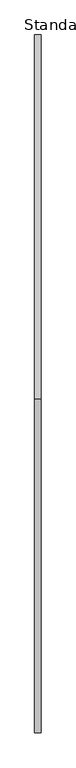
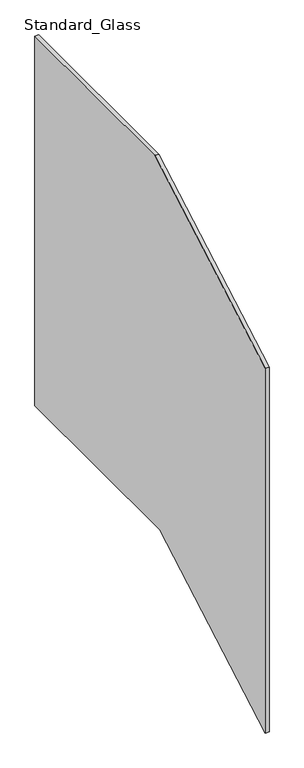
"""IFC4 building model written with IfcOpenShell, lengths in millimetres: railing geometry, Baluster-Landing-Panel-VIVA-VISIO-Lower : Standard_Glass."""

import ifcopenshell
import ifcopenshell.guid

model = None  # the IFC model being written
_history = None  # IfcOwnerHistory: only IFC2X3 demands one
_inside = {}  # id of a spatial element -> (the spatial element, [elements in it])
_under = {}  # id of a project, library or spatial element -> (it, [spatial elements below it])
_declared = {}  # id of a project -> (the project, [libraries it declares])
_typed = {}  # id of a type object -> (the type object, [elements of that type])
_made_of = {}  # id of a material, layer set ... -> (it, [elements and type objects made of it])


def new_model(schema):
    """Start an empty IFC model of exactly this schema.

    Asked for "IFC4X3", IfcOpenShell would pick the latest addendum, in which some entities
    have other attributes; the version numbers below select the first issue.
    IFC2X3 requires an IfcOwnerHistory on every rooted entity: one is made here for all.
    """
    global model, _history
    if schema == "IFC4X3":
        model = ifcopenshell.file(schema_version=(4, 3, 0, 0))
    else:
        model = ifcopenshell.file(schema=schema)
    _inside.clear()
    _under.clear()
    _declared.clear()
    _typed.clear()
    _made_of.clear()
    _history = None
    if model.schema == "IFC2X3":
        org = make("IfcOrganization", Name="unknown")
        user = make(
            "IfcPersonAndOrganization",
            ThePerson=make("IfcPerson", FamilyName="unknown"),
            TheOrganization=org,
        )
        app = make(
            "IfcApplication",
            ApplicationDeveloper=org,
            Version="unknown",
            ApplicationFullName="unknown",
            ApplicationIdentifier="unknown",
        )
        _history = make(
            "IfcOwnerHistory",
            OwningUser=user,
            OwningApplication=app,
            ChangeAction="ADDED",
            CreationDate=0,
        )
    return model


def make(cls, **values):
    """One entity of the class cls with the attributes given. An attribute that is None is left unset."""
    return model.create_entity(
        cls, **{name: value for name, value in values.items() if value is not None}
    )


def rooted(cls, **values):
    """An entity with a GlobalId (a new one), such as an element, a storey or a relation."""
    return make(cls, GlobalId=ifcopenshell.guid.new(), OwnerHistory=_history, **values)


def si_unit(unit_type, name, prefix=None):
    """IfcSIUnit, for example si_unit("LENGTHUNIT", "METRE", prefix="MILLI")."""
    return make("IfcSIUnit", UnitType=unit_type, Prefix=prefix, Name=name)


def assignment(units):
    """IfcUnitAssignment: the units of a project."""
    return None if units is None else make("IfcUnitAssignment", Units=units)


def point(xyz):
    """IfcCartesianPoint."""
    return None if xyz is None else make("IfcCartesianPoint", Coordinates=xyz)


def direction(xyz):
    """IfcDirection."""
    return None if xyz is None else make("IfcDirection", DirectionRatios=xyz)


def frame(location, z_axis=None, x_axis=None):
    """IfcAxis2Placement3D, a coordinate frame: its origin and axes. An axis left out is left unset."""
    return make(
        "IfcAxis2Placement3D",
        Location=point(location),
        Axis=direction(z_axis),
        RefDirection=direction(x_axis),
    )


def origin():
    """The frame at (0, 0, 0) with its axes left unset."""
    return frame((0.0, 0.0, 0.0))


def place(relative_to, where):
    """IfcLocalPlacement: puts the frame where relative to a parent placement (None: the world)."""
    return make(
        "IfcLocalPlacement", PlacementRelTo=relative_to, RelativePlacement=where
    )


def context(
    kind, dimensions, precision=None, world=None, true_north=None, identifier=None
):
    """IfcGeometricRepresentationContext, for example the 3D "Model" context."""
    return make(
        "IfcGeometricRepresentationContext",
        ContextIdentifier=identifier,
        ContextType=kind,
        CoordinateSpaceDimension=dimensions,
        Precision=precision,
        WorldCoordinateSystem=world,
        TrueNorth=true_north,
    )


def project(units=None, contexts=None):
    """IfcProject with its units and contexts."""
    return rooted(
        "IfcProject",
        Name="project",
        RepresentationContexts=contexts,
        UnitsInContext=assignment(units),
    )


def spatial(cls, under=None, at=None, **own):
    """A site, building, storey or space (cls), placed at a placement, below another one or the project."""
    s = rooted(cls, ObjectPlacement=at, **own)
    if under is not None:
        _under.setdefault(under.id(), (under, []))[1].append(s)
    return s


def polyline(points):
    """IfcPolyline through the points."""
    return make("IfcPolyline", Points=[point(p) for p in points])


def outline(outer, holes=None, kind="AREA"):
    """IfcArbitraryClosedProfileDef: a profile drawn as a closed curve; with holes, ...WithVoids."""
    if holes is None:
        return make("IfcArbitraryClosedProfileDef", ProfileType=kind, OuterCurve=outer)
    return make(
        "IfcArbitraryProfileDefWithVoids",
        ProfileType=kind,
        OuterCurve=outer,
        InnerCurves=holes,
    )


def extrude(swept, where, along, depth):
    """IfcExtrudedAreaSolid: the profile swept, set in the frame where, extruded along a direction by depth."""
    return make(
        "IfcExtrudedAreaSolid",
        SweptArea=swept,
        Position=where,
        ExtrudedDirection=direction(along),
        Depth=depth,
    )


def shape(context_of_items, identifier, shape_type, items):
    """IfcShapeRepresentation: the items that make up one representation, for example the "Body"."""
    return make(
        "IfcShapeRepresentation",
        ContextOfItems=context_of_items,
        RepresentationIdentifier=identifier,
        RepresentationType=shape_type,
        Items=items,
    )


def source(mapping_origin, context_of_items, identifier, shape_type, items):
    """IfcRepresentationMap: a shape defined once, which mapped items show again and again."""
    return make(
        "IfcRepresentationMap",
        MappingOrigin=mapping_origin,
        MappedRepresentation=shape(context_of_items, identifier, shape_type, items),
    )


def transform(
    local_origin,
    x_axis=None,
    y_axis=None,
    z_axis=None,
    scale=None,
    scale2=None,
    scale3=None,
    uniform=True,
):
    """IfcCartesianTransformationOperator3D, or its non-uniform kind. x_axis, y_axis, z_axis: its Axis1, 2, 3."""
    if uniform:
        return make(
            "IfcCartesianTransformationOperator3D",
            Axis1=direction(x_axis),
            Axis2=direction(y_axis),
            LocalOrigin=point(local_origin),
            Scale=scale,
            Axis3=direction(z_axis),
        )
    return make(
        "IfcCartesianTransformationOperator3DnonUniform",
        Axis1=direction(x_axis),
        Axis2=direction(y_axis),
        LocalOrigin=point(local_origin),
        Scale=scale,
        Axis3=direction(z_axis),
        Scale2=scale2,
        Scale3=scale3,
    )


def mapped(mapping_source, mapping_target):
    """IfcMappedItem: shows the shape of a source again, moved by a transform."""
    return make(
        "IfcMappedItem", MappingSource=mapping_source, MappingTarget=mapping_target
    )


def made_of(thing, what):
    """Note that an element or type object is made of a material, layer set ...; save() writes the relation."""
    if what is not None:
        _made_of.setdefault(what.id(), (what, []))[1].append(thing)
    return thing


def element(
    cls,
    number,
    at=None,
    inside=None,
    cuts=None,
    type_object=None,
    material=None,
    context=None,
    identifier="Body",
    shape_type=None,
    held_by="IfcProductDefinitionShape",
    body=None,
    shapes=None,
    **own,
):
    """One element of the class cls, such as IfcWall. Its Tag is "e" and its number.

    at: its placement. inside: the storey or other place that contains it. cuts: it is an
    opening in that element (IfcRelVoidsElement). A single representation is given by context,
    identifier, shape_type and body (its items); several are given by shapes. held_by: the class
    of the entity that holds the representations. save() writes the other relations.
    """
    e = rooted(cls, Tag="e%d" % number, ObjectPlacement=at, **own)
    if body is not None:
        shapes = [shape(context, identifier, shape_type, body)]
    if shapes is not None:
        e.Representation = make(held_by, Representations=shapes)
    if inside is not None:
        _inside.setdefault(inside.id(), (inside, []))[1].append(e)
    if cuts is not None:
        rooted(
            "IfcRelVoidsElement", RelatingBuildingElement=cuts, RelatedOpeningElement=e
        )
    if type_object is not None:
        _typed.setdefault(type_object.id(), (type_object, []))[1].append(e)
    return made_of(e, material)


def aggregate(whole, parts):
    """IfcRelAggregates: a whole, such as a stair, and the parts it consists of."""
    return rooted("IfcRelAggregates", RelatingObject=whole, RelatedObjects=parts)


def save(model, path):
    """Write the relations noted so far, then the file.

    IfcRelAggregates (storeys below a building ...), IfcRelContainedInSpatialStructure (elements
    in a storey), IfcRelDefinesByType, IfcRelAssociatesMaterial and IfcRelDeclares: one each for
    every whole, place, type object, material and project.
    """
    for whole, parts in _under.values():
        aggregate(whole, parts)
    for where, things in _inside.values():
        rooted(
            "IfcRelContainedInSpatialStructure",
            RelatedElements=things,
            RelatingStructure=where,
        )
    for kind, things in _typed.values():
        rooted("IfcRelDefinesByType", RelatedObjects=things, RelatingType=kind)
    for what, things in _made_of.values():
        rooted("IfcRelAssociatesMaterial", RelatedObjects=things, RelatingMaterial=what)
    for by, libraries in _declared.values():
        rooted("IfcRelDeclares", RelatingContext=by, RelatedDefinitions=libraries)
    model.write(path)


def standard_glass_eb46f0c2(model_context):
    return source(origin(), model_context, "Body", "SweptSolid", [
        extrude(outline(polyline([(485.5188066, 1087.12), (1019.1089961, 1087.12), (1019.1089961, 84.6584136), (463.2739542, 84.6584136), (-5.0108793, -182.88), (-5.0108793, 806.872756), (485.5188066, 1087.12)])), frame((33.3375, 0.0, 0.0), z_axis=(1.0, 0.0, 0.0), x_axis=(0.0, 1.0, 0.0)), (0.0, 0.0, 1.0), 9.525),
    ])


if __name__ == "__main__":
    model = new_model("IFC4")
    model_context = context("Model", 3, world=origin())
    ifc_project = project(units=[si_unit("LENGTHUNIT", "METRE", prefix="MILLI")], contexts=[model_context])
    site = spatial("IfcSite", under=ifc_project)
    building = spatial("IfcBuilding", under=site)
    placement = place(None, origin())
    standard_glass_shape = standard_glass_eb46f0c2(model_context)
    element("IfcRailing", 1, ObjectType="Baluster-Landing-Panel-VIVA-VISIO-Lower : Standard_Glass", at=placement, inside=building, context=model_context, shape_type="MappedRepresentation", body=[
        mapped(standard_glass_shape, transform((0.0, 0.0, 0.0), x_axis=(1.0, 0.0, 0.0), y_axis=(0.0, 1.0, 0.0), z_axis=(0.0, 0.0, 1.0))),
    ])
    save(model, "model.ifc")
